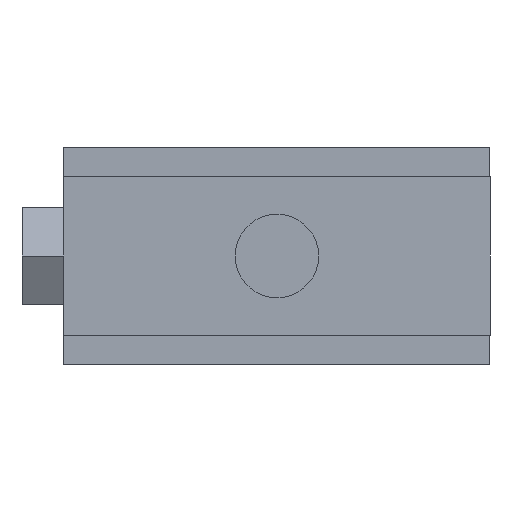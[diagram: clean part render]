
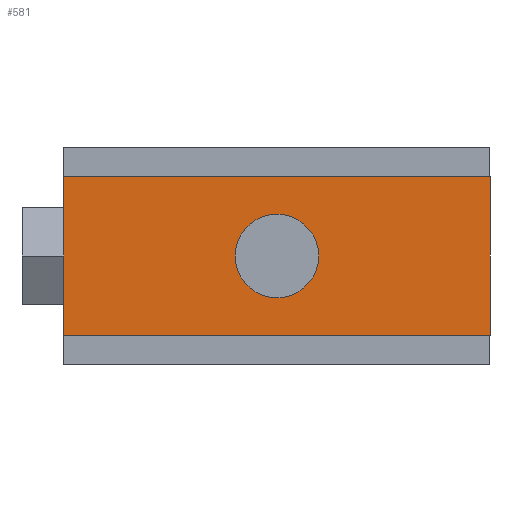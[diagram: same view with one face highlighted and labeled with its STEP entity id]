
A CAD part, front view. The second image highlights one B-rep face of the part: STEP entity #581.
In plain terms, the highlighted planar face has unit normal (0, -1, 0).
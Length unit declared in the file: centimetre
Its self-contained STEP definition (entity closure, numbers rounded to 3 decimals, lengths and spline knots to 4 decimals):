
#182=VERTEX_POINT('',#2514);
#207=VERTEX_POINT('',#2579);
#208=VERTEX_POINT('',#2581);
#231=VERTEX_POINT('',#2629);
#232=VERTEX_POINT('',#2631);
#238=EDGE_CURVE('',#182,#182,#691,.T.);
#269=EDGE_CURVE('',#208,#207,#1144,.T.);
#293=EDGE_CURVE('',#232,#231,#1164,.T.);
#310=EDGE_CURVE('',#207,#232,#1179,.T.);
#311=EDGE_CURVE('',#208,#231,#1180,.T.);
#430=ORIENTED_EDGE('',*,*,#238,.T.);
#431=ORIENTED_EDGE('',*,*,#293,.T.);
#432=ORIENTED_EDGE('',*,*,#311,.F.);
#433=ORIENTED_EDGE('',*,*,#269,.T.);
#434=ORIENTED_EDGE('',*,*,#310,.T.);
#508=EDGE_LOOP('',(#430));
#509=EDGE_LOOP('',(#431,#432,#433,#434));
#546=FACE_BOUND('',#508,.T.);
#547=FACE_BOUND('',#509,.T.);
#581=ADVANCED_FACE('',(#546,#547),#1977,.T.);
#691=CIRCLE('',#1734,0.5);
#1144=LINE('',#2580,#1906);
#1164=LINE('',#2630,#1926);
#1179=LINE('',#2659,#1941);
#1180=LINE('',#2661,#1942);
#1734=AXIS2_PLACEMENT_3D('',#2513,#2182,#2183);
#1764=AXIS2_PLACEMENT_3D('',#2660,#2288,$);
#1906=VECTOR('',#2229,1.);
#1926=VECTOR('',#2259,1.);
#1941=VECTOR('',#2287,1.);
#1942=VECTOR('',#2289,1.);
#1977=PLANE('',#1764);
#2182=DIRECTION('',(0.,1.,0.));
#2183=DIRECTION('',(0.5,0.,0.));
#2229=DIRECTION('',(1.,0.,0.));
#2259=DIRECTION('',(-1.,0.,0.));
#2287=DIRECTION('',(0.,0.,1.));
#2288=DIRECTION('',(0.,-1.,0.));
#2289=DIRECTION('',(0.,0.,1.));
#2513=CARTESIAN_POINT('',(-2.55,0.,0.95));
#2514=CARTESIAN_POINT('',(-2.05,0.,0.95));
#2579=CARTESIAN_POINT('',(0.,0.,0.));
#2580=CARTESIAN_POINT('',(-5.1,0.,0.));
#2581=CARTESIAN_POINT('',(-5.1,0.,0.));
#2629=CARTESIAN_POINT('',(-5.1,0.,1.9));
#2630=CARTESIAN_POINT('',(-5.1,0.,1.9));
#2631=CARTESIAN_POINT('',(0.,0.,1.9));
#2659=CARTESIAN_POINT('',(0.,0.,0.));
#2660=CARTESIAN_POINT('',(-2.55,0.,0.));
#2661=CARTESIAN_POINT('',(-5.1,0.,0.));
